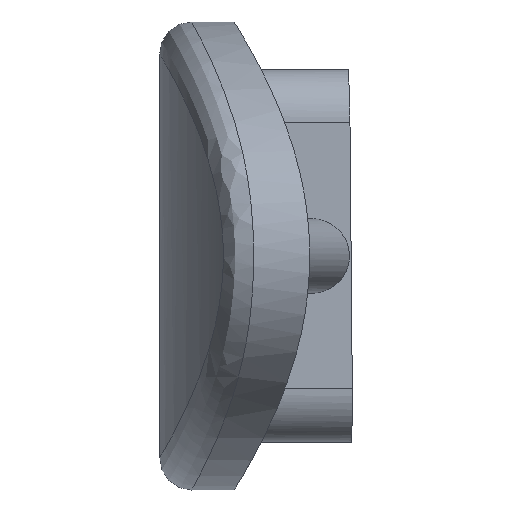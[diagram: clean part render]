
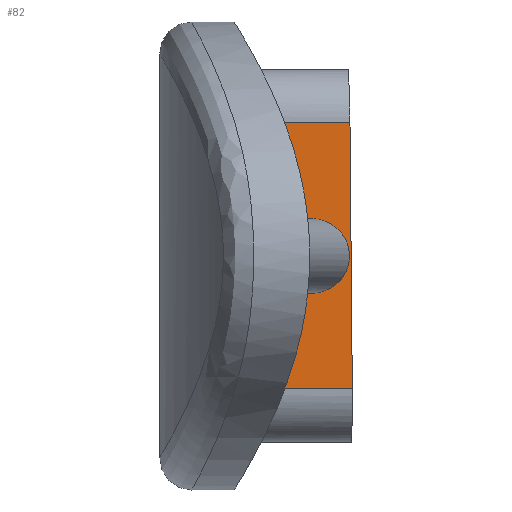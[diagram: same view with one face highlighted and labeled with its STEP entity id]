
A CAD part, front view. The second image highlights one B-rep face of the part: STEP entity #82.
In plain terms, the highlighted planar face has unit normal (0, -1, 0).
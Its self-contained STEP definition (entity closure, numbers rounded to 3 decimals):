
#82 = ADVANCED_FACE( '', ( #108 ), #109, .T. );
#108 = FACE_OUTER_BOUND( '', #880, .T. );
#109 = PLANE( '', #881 );
#880 = EDGE_LOOP( '', ( #945, #946, #947, #948, #949, #950, #951, #952 ) );
#881 = AXIS2_PLACEMENT_3D( '', #953, #954, #955 );
#945 = ORIENTED_EDGE( '', *, *, #1016, .T. );
#946 = ORIENTED_EDGE( '', *, *, #1030, .T. );
#947 = ORIENTED_EDGE( '', *, *, #1031, .T. );
#948 = ORIENTED_EDGE( '', *, *, #1032, .T. );
#949 = ORIENTED_EDGE( '', *, *, #1020, .T. );
#950 = ORIENTED_EDGE( '', *, *, #1033, .T. );
#951 = ORIENTED_EDGE( '', *, *, #1034, .T. );
#952 = ORIENTED_EDGE( '', *, *, #1028, .F. );
#953 = CARTESIAN_POINT( '', ( -11.801, -0.5, -71.249 ) );
#954 = DIRECTION( '', ( 0., -1., 0. ) );
#955 = DIRECTION( '', ( 0., 0., -1. ) );
#1016 = EDGE_CURVE( '', #1064, #1062, #1065, .F. );
#1020 = EDGE_CURVE( '', #1072, #1070, #1073, .F. );
#1028 = EDGE_CURVE( '', #1064, #1080, #1081, .T. );
#1030 = EDGE_CURVE( '', #1062, #1083, #1084, .T. );
#1031 = EDGE_CURVE( '', #1083, #1085, #1086, .T. );
#1032 = EDGE_CURVE( '', #1085, #1072, #1087, .F. );
#1033 = EDGE_CURVE( '', #1070, #1088, #1089, .T. );
#1034 = EDGE_CURVE( '', #1088, #1080, #1090, .F. );
#1062 = VERTEX_POINT( '', #1354 );
#1064 = VERTEX_POINT( '', #1365 );
#1065 = LINE( '', #1366, #1367 );
#1070 = VERTEX_POINT( '', #1389 );
#1072 = VERTEX_POINT( '', #1391 );
#1073 = LINE( '', #1392, #1393 );
#1080 = VERTEX_POINT( '', #1708 );
#1081 = LINE( '', #1709, #1710 );
#1083 = VERTEX_POINT( '', #1713 );
#1084 = LINE( '', #1714, #1715 );
#1085 = VERTEX_POINT( '', #1716 );
#1086 = B_SPLINE_CURVE_WITH_KNOTS( '', 3, ( #1717, #1718, #1719, #1720 ), .UNSPECIFIED., .F., .F., ( 4, 4 ), ( 0.007, 0.01 ), .UNSPECIFIED. );
#1087 = LINE( '', #1721, #1722 );
#1088 = VERTEX_POINT( '', #1723 );
#1089 = LINE( '', #1724, #1725 );
#1090 = ELLIPSE( '', #1726, 0.358, 0.35 );
#1354 = CARTESIAN_POINT( '', ( -11.589, -0.5, -70.749 ) );
#1365 = CARTESIAN_POINT( '', ( -11.589, -0.5, -69.85 ) );
#1366 = CARTESIAN_POINT( '', ( -11.589, -0.5, -72.55 ) );
#1367 = VECTOR( '', #1767, 1000. );
#1389 = CARTESIAN_POINT( '', ( -11.589, -0.5, -69.15 ) );
#1391 = CARTESIAN_POINT( '', ( -11.589, -0.5, -68.249 ) );
#1392 = CARTESIAN_POINT( '', ( -11.589, -0.5, -72.55 ) );
#1393 = VECTOR( '', #1774, 1000. );
#1708 = CARTESIAN_POINT( '', ( -10.873, -0.5, -69.85 ) );
#1709 = CARTESIAN_POINT( '', ( -11.801, -0.5, -69.85 ) );
#1710 = VECTOR( '', #1775, 1000. );
#1713 = CARTESIAN_POINT( '', ( -10.489, -0.5, -70.749 ) );
#1714 = CARTESIAN_POINT( '', ( -10.484, -0.5, -70.749 ) );
#1715 = VECTOR( '', #1777, 1000. );
#1716 = CARTESIAN_POINT( '', ( -10.51, -0.5, -68.249 ) );
#1717 = CARTESIAN_POINT( '', ( -10.489, -0.5, -70.749 ) );
#1718 = CARTESIAN_POINT( '', ( -10.496, -0.5, -69.916 ) );
#1719 = CARTESIAN_POINT( '', ( -10.503, -0.5, -69.083 ) );
#1720 = CARTESIAN_POINT( '', ( -10.51, -0.5, -68.249 ) );
#1721 = CARTESIAN_POINT( '', ( -11.801, -0.5, -68.249 ) );
#1722 = VECTOR( '', #1778, 1000. );
#1723 = CARTESIAN_POINT( '', ( -10.873, -0.5, -69.15 ) );
#1724 = CARTESIAN_POINT( '', ( -11.801, -0.5, -69.15 ) );
#1725 = VECTOR( '', #1779, 1000. );
#1726 = AXIS2_PLACEMENT_3D( '', #1780, #1781, #1782 );
#1767 = DIRECTION( '', ( 0., 0., 1. ) );
#1774 = DIRECTION( '', ( 0., 0., 1. ) );
#1775 = DIRECTION( '', ( 1., 0., 0. ) );
#1777 = DIRECTION( '', ( 1., 0., 0. ) );
#1778 = DIRECTION( '', ( 1., 0., 0. ) );
#1779 = DIRECTION( '', ( 1., 0., 0. ) );
#1780 = CARTESIAN_POINT( '', ( -10.873, -0.5, -69.5 ) );
#1781 = DIRECTION( '', ( 0., -1., 0. ) );
#1782 = DIRECTION( '', ( 1., 0., 0. ) );
